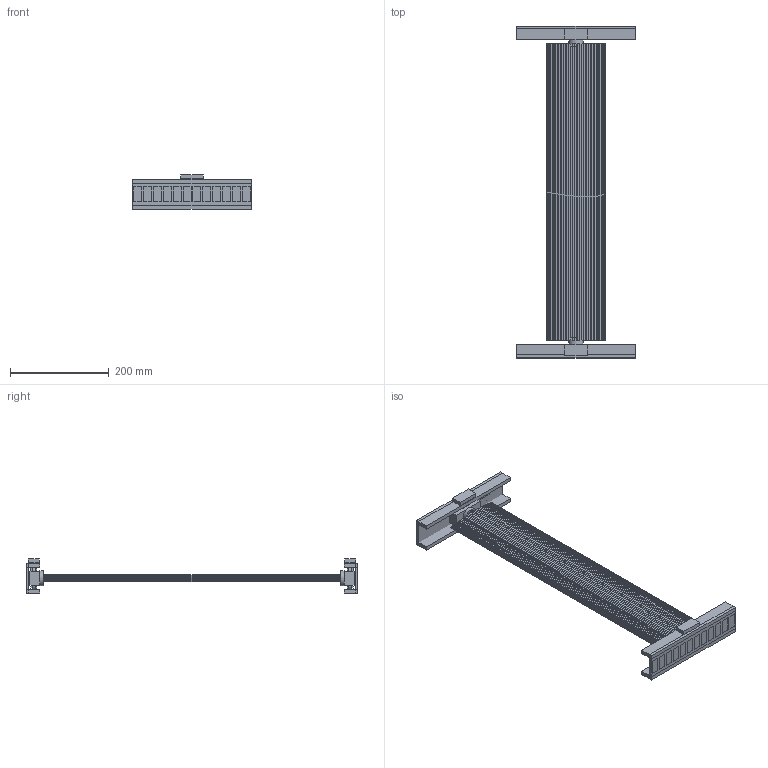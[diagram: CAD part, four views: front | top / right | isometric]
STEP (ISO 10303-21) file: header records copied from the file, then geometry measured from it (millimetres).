
FILE_DESCRIPTION(('FreeCAD Model'),'2;1');
FILE_NAME('Open CASCADE Shape Model','2026-10-29T11:57:35',('FreeCAD'),( 'FreeCAD'),'Open CASCADE STEP processor 7.8','FreeCAD','Unknown');
FILE_SCHEMA(('AUTOMOTIVE_DESIGN { 1 0 10303 214 1 1 1 1 }'));
Length unit declared in the file: millimetre
Products named in the file (1): Open CASCADE STEP translator 7.8 2
Bounding box: 240 x 672 x 69 mm (x, y, z)
Volume: 825635.2 mm3; surface area: 510449.5 mm2
Topology: 62 solids, 62 shells, 533 faces, 1227 edges, 818 vertices
Faces by surface type: plane 508, cylinder 25
Full cylindrical faces by diameter (mm): 8 x3, 8.4 x4, 12 x8, 16 x1, 22 x2, 22.2 x2, 24 x1, 24.4 x2, 30 x2
Entity records: 14723 total; most frequent: CARTESIAN_POINT 2579, ORIENTED_EDGE 2454, DIRECTION 2345, EDGE_CURVE 1227, LINE 1177, VECTOR 1177, VERTEX_POINT 818, AXIS2_PLACEMENT_3D 584
